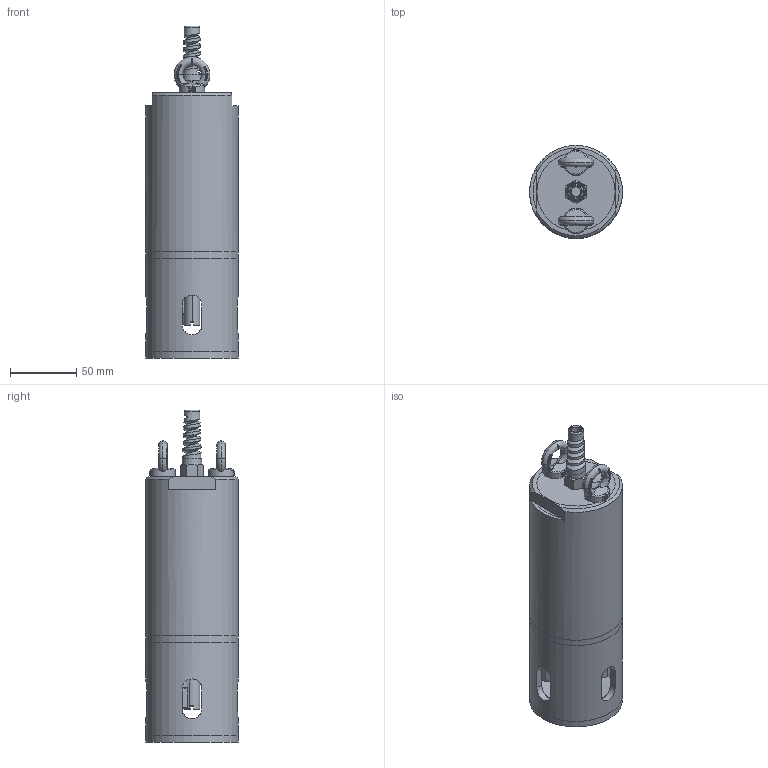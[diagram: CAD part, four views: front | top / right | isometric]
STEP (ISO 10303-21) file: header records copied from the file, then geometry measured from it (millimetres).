
FILE_DESCRIPTION(('FreeCAD Model'),'2;1');
FILE_NAME('Open CASCADE Shape Model','2026-04-19T16:18:29',('Author'),( ''),'Open CASCADE STEP processor 7.8','FreeCAD','Unknown');
FILE_SCHEMA(('AUTOMOTIVE_DESIGN { 1 0 10303 214 1 1 1 1 }'));
Products named in the file (1): AcquaProbe-AQ 3D
Bounding box: 70 x 70 x 250.25 mm (x, y, z)
Volume: 664467.1 mm3; surface area: 86892.7 mm2
Topology: 1 solids, 3 shells, 823 faces, 2208 edges, 1459 vertices
Faces by surface type: plane 353, bspline 322, cylinder 70, torus 59, cone 13, revolution 6
Full cylindrical faces by diameter (mm): 6 x3, 7.3 x6, 10 x1, 11 x1, 11.8 x1, 12 x1, 58 x1, 60 x5, 70 x4
Entity records: 53173 total; most frequent: CARTESIAN_POINT 35881, ORIENTED_EDGE 4416, EDGE_CURVE 2208, DIRECTION 2121, VERTEX_POINT 1459, B_SPLINE_CURVE_WITH_KNOTS 1290, FACE_BOUND 907, EDGE_LOOP 907
